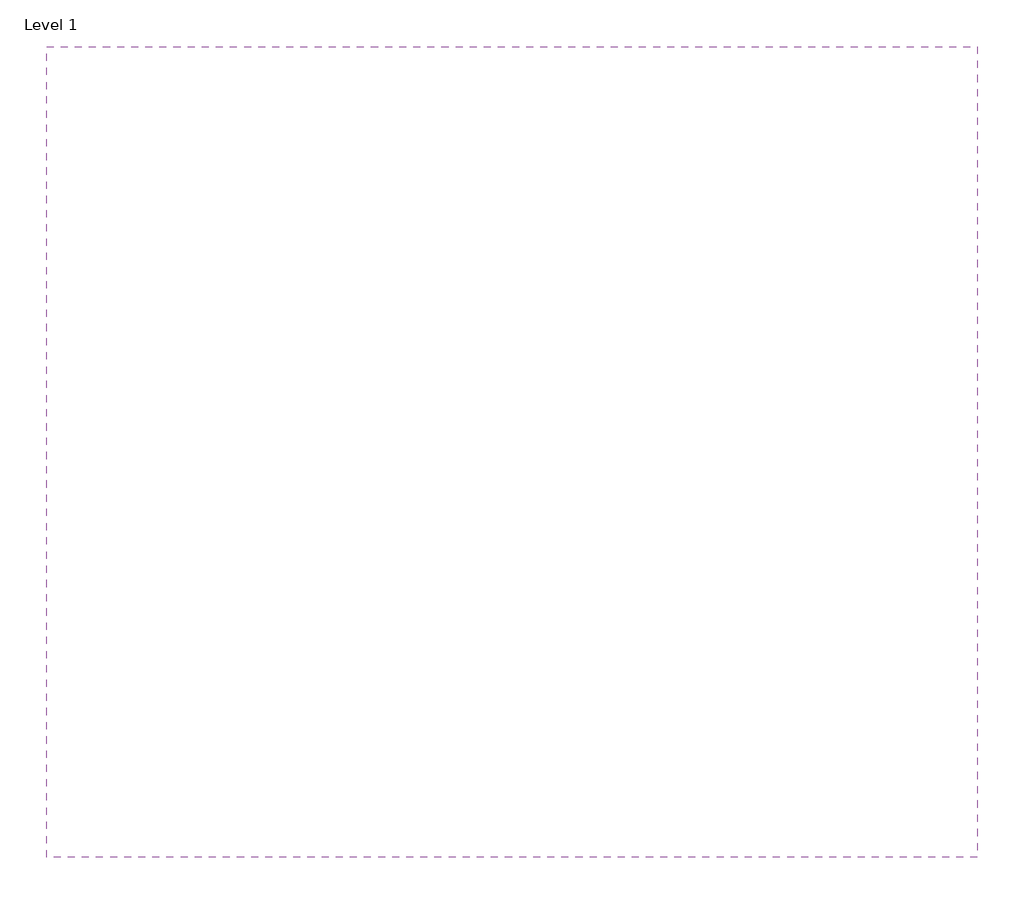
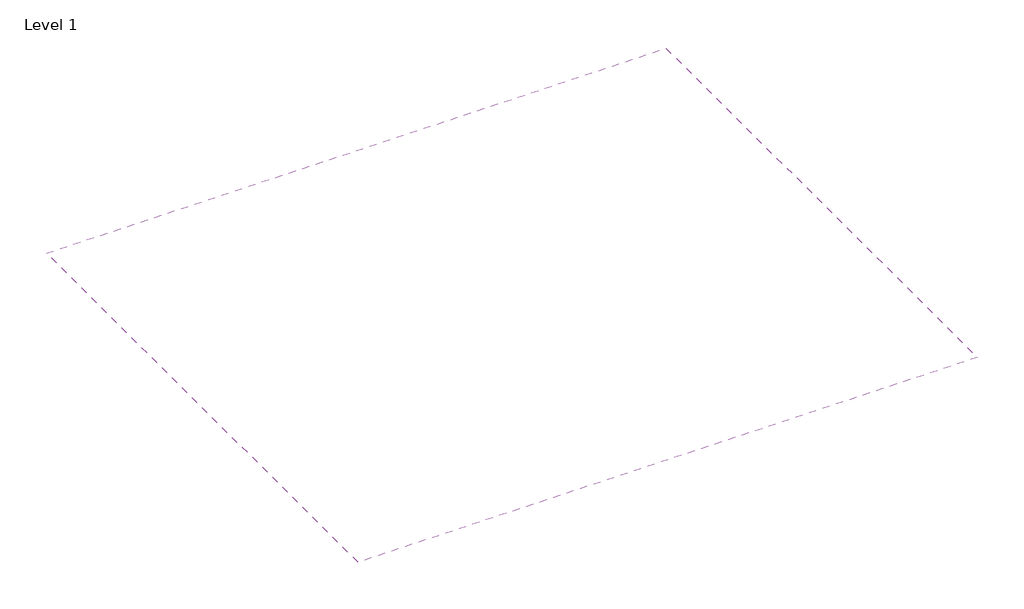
# One storey: 1 covering.
"""IFC4 building model written with IfcOpenShell, lengths in millimetres."""

from ifc_helpers import new_model, si_unit, frame, origin, place, context, project, spatial, polyline, outline, extrude, element, save

model = new_model("IFC4")

# Units and contexts
model_context = context("Model", 3, world=origin())
ifc_project = project(units=[si_unit("LENGTHUNIT", "METRE", prefix="MILLI")], contexts=[model_context])

# Site, building, storey
site = spatial("IfcSite", under=ifc_project)
building = spatial("IfcBuilding", under=site)
storey = spatial("IfcBuildingStorey", under=building, Name="Level 1", Elevation=0.0)

# Covering
placement = place(None, origin())
element("IfcCovering", 1, ObjectType="GWB on Mtl. Stud", at=placement, inside=storey, context=model_context, shape_type="SweptSolid", body=[
    extrude(outline(polyline([(19064.584914, 17129.1241853), (19064.584914, -15789.2758147), (-18730.615086, -15789.2758147), (-18730.615086, 17129.1241853), (19064.584914, 17129.1241853)])), frame((0.0, 0.0, 2438.4), z_axis=(0.0, 0.0, 1.0), x_axis=(1.0, 0.0, 0.0)), (0.0, 0.0, 1.0), 107.95),
])

save(model, "model.ifc")
